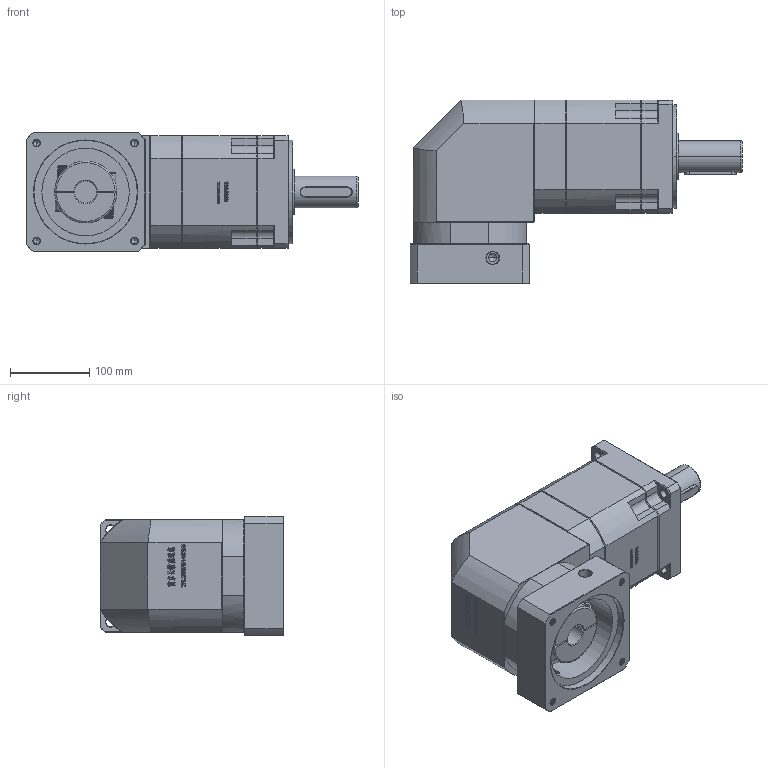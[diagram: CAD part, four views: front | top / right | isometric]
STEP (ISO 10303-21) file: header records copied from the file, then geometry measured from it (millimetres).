
FILE_DESCRIPTION (( 'STEP AP214' ), '1' );
FILE_NAME ('ZBR142A-D40-L3-28-130-174-M10.step', '2023-03-18T09:23:45', ( '' ), ( '' ), 'SwSTEP 2.0', 'SolidWorks 2016', '' );
FILE_SCHEMA (( 'AUTOMOTIVE_DESIGN' ));
Length unit declared in the file: millimetre
Products named in the file (1): ZBR142A-D40-L3-28-130-174-M10
Bounding box: 417.7 x 231 x 150 mm (x, y, z)
Volume: 7013505.1 mm3; surface area: 441361.2 mm2
Topology: 6 solids, 6 shells, 2939 faces, 7834 edges, 5044 vertices
Faces by surface type: plane 1552, bspline 597, cylinder 428, cone 340, torus 22
Entity records: 165241 total; most frequent: CARTESIAN_POINT 64445, ORIENTED_EDGE 15608, DIRECTION 11825, EDGE_CURVE 7804, VECTOR 5239, LINE 5239, VERTEX_POINT 5044, AXIS2_PLACEMENT_3D 3293
